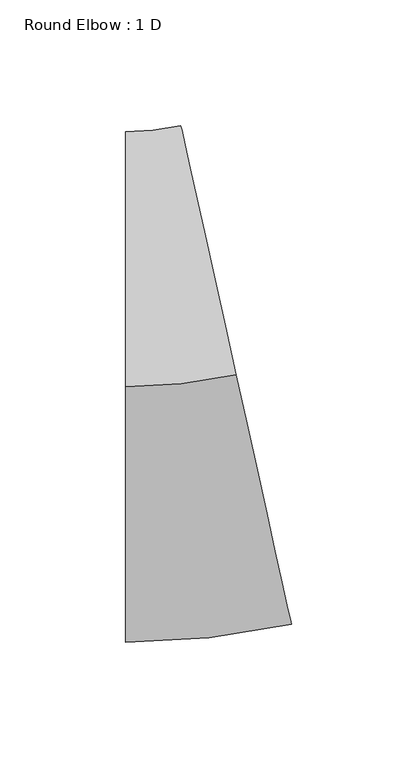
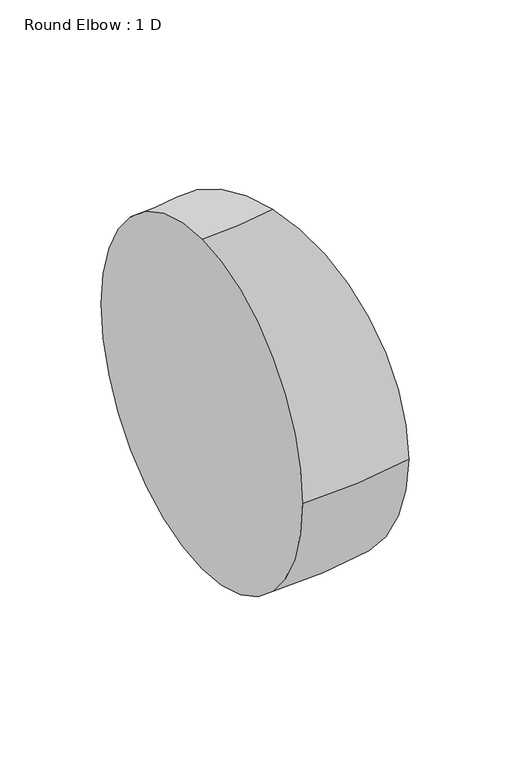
"""IFC4 building model written with IfcOpenShell, lengths in millimetres: duct fitting geometry, Round Elbow : 1 D."""

from ifc_helpers import new_model, si_unit, point, frame, origin, place, context, project, spatial, circle_curve, ellipse_curve, trimmed, source, transform, mapped, element, save
from ifc_brep_helpers import plane_surface, revolved_surface, advanced_brep


def round_elbow_1_d_ad049c3c(model_context):
    return source(origin(), model_context, "Body", "AdvancedBrep", [
        advanced_brep(
        [(-22.2950061, 0.0, 101.6), (-22.2950061, 101.6, 0.0), (-22.2950061, 0.0, -101.6), (-22.2950061, -101.6, 0.0), (21.7646002, 4.8341988, 101.6), (43.7944033, -94.3487018, 0.0), (21.7646002, 4.8341988, -101.6), (-0.265203, 104.0170994, 0.0)],
        [
            (0, 1, circle_curve(frame((-22.2950061, 0.0, 0.0), z_axis=(-1.0, 0.0, 0.0), x_axis=(0.0, 1.0, 0.0)), 101.6)),
            (1, 2, circle_curve(frame((-22.2950061, 0.0, 0.0), z_axis=(-1.0, 0.0, 0.0), x_axis=(0.0, 1.0, 0.0)), 101.6)),
            (2, 3, circle_curve(frame((-22.2950061, 0.0, 0.0), z_axis=(-1.0, 0.0, 0.0), x_axis=(0.0, 1.0, 0.0)), 101.6)),
            (3, 0, circle_curve(frame((-22.2950061, 0.0, 0.0), z_axis=(-1.0, 0.0, 0.0), x_axis=(0.0, 1.0, 0.0)), 101.6)),
            (4, 5, circle_curve(frame((21.7646002, 4.8341988, 0.0), z_axis=(0.9762096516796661, 0.21682877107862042, 0.0), x_axis=(-0.21682877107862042, 0.9762096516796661, 0.0)), 101.6)),
            (5, 6, circle_curve(frame((21.7646002, 4.8341988, 0.0), z_axis=(0.9762096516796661, 0.21682877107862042, 0.0), x_axis=(-0.21682877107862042, 0.9762096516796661, 0.0)), 101.6)),
            (6, 7, circle_curve(frame((21.7646002, 4.8341988, 0.0), z_axis=(0.9762096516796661, 0.21682877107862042, 0.0), x_axis=(-0.21682877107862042, 0.9762096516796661, 0.0)), 101.6)),
            (7, 4, circle_curve(frame((21.7646002, 4.8341988, 0.0), z_axis=(0.9762096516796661, 0.21682877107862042, 0.0), x_axis=(-0.21682877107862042, 0.9762096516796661, 0.0)), 101.6)),
            (7, 1, circle_curve(frame((-22.2950061, 203.2, 0.0), z_axis=(0.0, 0.0, -1.0), x_axis=(0.0, -1.0, 0.0)), 101.6)),
            (0, 4, circle_curve(frame((-22.2950061, 203.2, 101.6), z_axis=(0.0, 0.0, 1.0), x_axis=(0.0, -1.0, 0.0)), 203.2)),
            (6, 2, circle_curve(frame((-22.2950061, 203.2, -101.6), z_axis=(0.0, 0.0, -1.0), x_axis=(0.0, -1.0, 0.0)), 203.2)),
            (5, 3, circle_curve(frame((-22.2950061, 203.2, 0.0), z_axis=(0.0, 0.0, -1.0), x_axis=(0.0, -1.0, 0.0)), 304.8)),
        ],
        [
            plane_surface(frame((-22.2950061, 0.0, 0.0), z_axis=(-1.0, 0.0, 0.0), x_axis=(0.0, 0.0, 1.0))),
            plane_surface(frame((21.7646002, 4.8341988, 0.0), z_axis=(0.9762096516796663, 0.21682877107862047, 0.0), x_axis=(0.0, 0.0, 1.0))),
            revolved_surface(trimmed(ellipse_curve(frame((-22.2950061, 0.0, 0.0), z_axis=(-1.0, 0.0, 0.0), x_axis=(0.0, 1.0, 0.0)), 101.6, 101.6), [point((-22.2950061, 0.0, 101.6))], [point((-22.2950061, 101.6, 0.0))], True, "CARTESIAN"), (-22.2950061, 203.2, 0.0), (0.0, 0.0, 1.0)),
            revolved_surface(trimmed(ellipse_curve(frame((-22.2950061, 0.0, 0.0), z_axis=(-1.0, 0.0, 0.0), x_axis=(0.0, 1.0, 0.0)), 101.6, 101.6), [point((-22.2950061, 101.6, 0.0))], [point((-22.2950061, 0.0, -101.6))], True, "CARTESIAN"), (-22.2950061, 203.2, 0.0), (0.0, 0.0, 1.0)),
            revolved_surface(trimmed(ellipse_curve(frame((-22.2950061, 0.0, 0.0), z_axis=(-1.0, 0.0, 0.0), x_axis=(0.0, 1.0, 0.0)), 101.6, 101.6), [point((-22.2950061, 0.0, -101.6))], [point((-22.2950061, -101.6, 0.0))], True, "CARTESIAN"), (-22.2950061, 203.2, 0.0), (0.0, 0.0, 1.0)),
            revolved_surface(trimmed(ellipse_curve(frame((-22.2950061, 0.0, 0.0), z_axis=(-1.0, 0.0, 0.0), x_axis=(0.0, 1.0, 0.0)), 101.6, 101.6), [point((-22.2950061, -101.6, 0.0))], [point((-22.2950061, 0.0, 101.6))], True, "CARTESIAN"), (-22.2950061, 203.2, 0.0), (0.0, 0.0, 1.0)),
        ],
        [
            (0, [[1, 2, 3, 4]]),
            (1, [[5, 6, 7, 8]]),
            (2, [[9, -1, 10, -8]]),
            (3, [[11, -2, -9, -7]]),
            (4, [[12, -3, -11, -6]]),
            (5, [[-10, -4, -12, -5]]),
        ],
    ),
    ])


if __name__ == "__main__":
    model = new_model("IFC4")
    model_context = context("Model", 3, world=origin())
    ifc_project = project(units=[si_unit("LENGTHUNIT", "METRE", prefix="MILLI")], contexts=[model_context])
    site = spatial("IfcSite", under=ifc_project)
    building = spatial("IfcBuilding", under=site)
    placement = place(None, origin())
    round_elbow_1_d_shape = round_elbow_1_d_ad049c3c(model_context)
    element("IfcDuctFitting", 1, ObjectType="Round Elbow : 1 D", at=placement, inside=building, context=model_context, shape_type="MappedRepresentation", body=[
        mapped(round_elbow_1_d_shape, transform((0.0, 0.0, 0.0), x_axis=(1.0, 0.0, 0.0), y_axis=(0.0, 1.0, 0.0), z_axis=(0.0, 0.0, 1.0))),
    ])
    save(model, "model.ifc")
